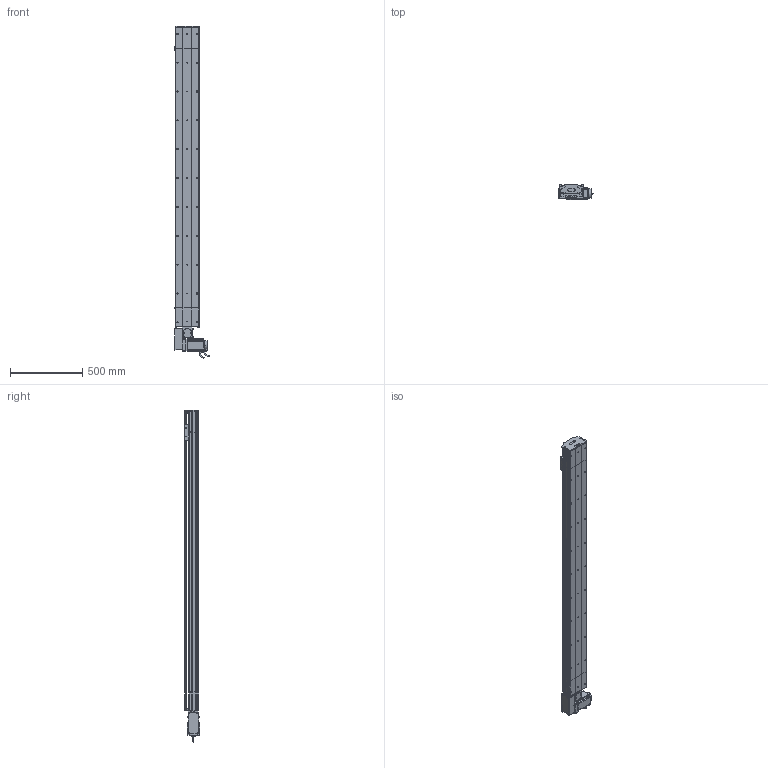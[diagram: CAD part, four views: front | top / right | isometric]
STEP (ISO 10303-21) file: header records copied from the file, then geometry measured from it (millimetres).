
FILE_DESCRIPTION (( 'STEP AP214' ), '1' );
FILE_NAME ('D17 TBN RH S1800.STEP', '2010-06-30T11:10:46', ( 'Christophe Gaillard' ), ( 'SGA' ), 'SwSTEP 2.0', 'SolidWorks 2010', '' );
FILE_SCHEMA (( 'AUTOMOTIVE_DESIGN' ));
Length unit declared in the file: millimetre
Products named in the file (40): vis M5 L8 90°_Default; vis M5 L12_Default; vis M5 L25_Default; chariot D17 TBN; tete d''axe poulie D17B; Chariot D17 TBN; corps 90BLDC125A-640; plaque de  bout tail D17B_Default; Rail D17B; poulie tail_Default; codeur 90BLDC125-640; couroie head D17_Default; D17 TBN RH S1800; course 1800 D17B_Default; guide D17; Conecteur2_Default; corp D17B 1800_Default; couvercle D17B course L1800_Default; Renvoi RH_Default; Plaque racord D17_Default; vis M5 L70_Default; vis M5 L16_Default; Conecteur_Default; corpl head D17 _Default; Couroie tail D17B_Default; Couroie+ rail D17 Course 1800 ; couvercle D17B_Default; Tail D17B_Default; corpl tail D17B_Default; couvercle D17B head_Default; Moteur motionking 90BLDC125A-640; Vis M5 L16-2_Default; plaque de  bout head D17B RH_Default; Head RH D17B_Default; Arbre+rail head D17B; cache D17_Default; vis M5 L5_Default; poulie head_Default; cache arbre D17_Default; avant 90BLDC125A-640
Assembly tree (66 placements, depth 4):
  D17 TBN RH S1800
    Tail D17B_Default
      vis M5 L8 90°_Default  x2
      Rail D17B
      vis M5 L25_Default  x2
      plaque de  bout tail D17B_Default
      Couroie tail D17B_Default
      couvercle D17B_Default
      vis M5 L12_Default  x4
      tete d''axe poulie D17B
      corpl tail D17B_Default
      poulie tail_Default
    course 1800 D17B_Default
      couvercle D17B course L1800_Default
      corp D17B 1800_Default
      Couroie+ rail D17 Course 1800 
    Head RH D17B_Default
      corpl head D17 _Default
      vis M5 L25_Default  x2
      vis M5 L5_Default  x4
      vis M5 L12_Default  x8
      plaque de  bout head D17B RH_Default
      cache D17_Default  x2
      Vis M5 L16-2_Default  x4
      Renvoi RH_Default
      couroie head D17_Default
      Plaque racord D17_Default
      vis M5 L70_Default  x4
      Moteur motionking 90BLDC125A-640
        codeur 90BLDC125-640
        avant 90BLDC125A-640
        Conecteur_Default
        corps 90BLDC125A-640
        Conecteur2_Default
      Arbre+rail head D17B
      cache arbre D17_Default
      vis M5 L16_Default  x2
      couvercle D17B head_Default
      poulie head_Default
    chariot D17 TBN
      guide D17  x2
      Chariot D17 TBN
Bounding box: 245.2 x 105.65 x 2300.95 mm (x, y, z)
Volume: 13110655 mm3; surface area: 3764849.5 mm2
Topology: 89 solids, 89 shells, 2579 faces, 6561 edges, 4230 vertices
Faces by surface type: plane 1533, cylinder 749, bspline 136, cone 80, torus 77, sphere 4
Entity records: 83387 total; most frequent: CARTESIAN_POINT 24903, ORIENTED_EDGE 10294, DIRECTION 9732, EDGE_CURVE 5147, LINE 3426, VECTOR 3426, VERTEX_POINT 3374, AXIS2_PLACEMENT_3D 3153
